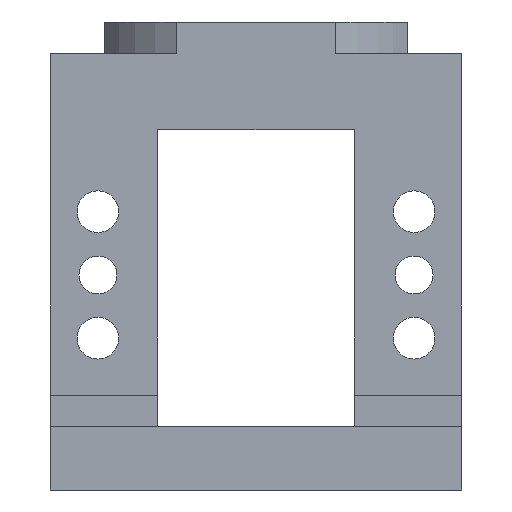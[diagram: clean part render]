
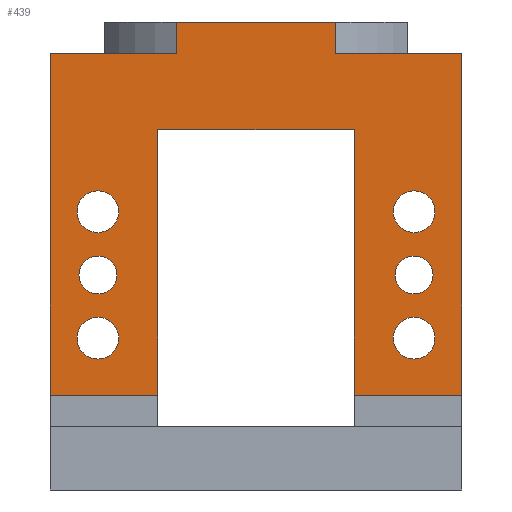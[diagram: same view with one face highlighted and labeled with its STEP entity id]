
A CAD part, front view. The second image highlights one B-rep face of the part: STEP entity #439.
In plain terms, the highlighted planar face has unit normal (0, -1, 0).
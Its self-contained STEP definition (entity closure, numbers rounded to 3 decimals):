
#321=CIRCLE('',#3394,3.);
#329=CIRCLE('',#3405,3.);
#360=CIRCLE('',#3461,3.3);
#363=CIRCLE('',#3466,3.3);
#367=CIRCLE('',#3472,3.3);
#371=CIRCLE('',#3478,3.3);
#439=ADVANCED_FACE('',(#1206,#1207,#1208,#1209,#1210,#1211,#1212),#586,
 .F.);
#586=PLANE('',#3507);
#720=LINE('',#5029,#913);
#726=LINE('',#5043,#919);
#733=LINE('',#5071,#926);
#736=LINE('',#5084,#929);
#738=LINE('',#5087,#931);
#743=LINE('',#5103,#936);
#744=LINE('',#5105,#937);
#745=LINE('',#5107,#938);
#746=LINE('',#5109,#939);
#747=LINE('',#5110,#940);
#748=LINE('',#5112,#941);
#749=LINE('',#5114,#942);
#913=VECTOR('',#3847,1.);
#919=VECTOR('',#3857,1.);
#926=VECTOR('',#3872,1.);
#929=VECTOR('',#3885,1.);
#931=VECTOR('',#3889,1.);
#936=VECTOR('',#3902,1.);
#937=VECTOR('',#3903,1.);
#938=VECTOR('',#3904,1.);
#939=VECTOR('',#3905,1.);
#940=VECTOR('',#3906,1.);
#941=VECTOR('',#3907,1.);
#942=VECTOR('',#3908,1.);
#1206=FACE_BOUND('',#1344,.T.);
#1207=FACE_BOUND('',#1345,.T.);
#1208=FACE_BOUND('',#1346,.T.);
#1209=FACE_BOUND('',#1347,.T.);
#1210=FACE_BOUND('',#1348,.T.);
#1211=FACE_BOUND('',#1349,.T.);
#1212=FACE_BOUND('',#1350,.T.);
#1344=EDGE_LOOP('',(#1776));
#1345=EDGE_LOOP('',(#1777));
#1346=EDGE_LOOP('',(#1778));
#1347=EDGE_LOOP('',(#1779));
#1348=EDGE_LOOP('',(#1780));
#1349=EDGE_LOOP('',(#1781));
#1350=EDGE_LOOP('',(#1782,#1783,#1784,#1785,#1786,#1787,#1788,#1789,#1790,
#1791,#1792,#1793));
#1776=ORIENTED_EDGE('',*,*,#2821,.F.);
#1777=ORIENTED_EDGE('',*,*,#2805,.F.);
#1778=ORIENTED_EDGE('',*,*,#2861,.F.);
#1779=ORIENTED_EDGE('',*,*,#2857,.F.);
#1780=ORIENTED_EDGE('',*,*,#2854,.F.);
#1781=ORIENTED_EDGE('',*,*,#2865,.F.);
#1782=ORIENTED_EDGE('',*,*,#2927,.F.);
#1783=ORIENTED_EDGE('',*,*,#2936,.F.);
#1784=ORIENTED_EDGE('',*,*,#2937,.T.);
#1785=ORIENTED_EDGE('',*,*,#2938,.T.);
#1786=ORIENTED_EDGE('',*,*,#2939,.F.);
#1787=ORIENTED_EDGE('',*,*,#2909,.F.);
#1788=ORIENTED_EDGE('',*,*,#2940,.T.);
#1789=ORIENTED_EDGE('',*,*,#2941,.T.);
#1790=ORIENTED_EDGE('',*,*,#2942,.F.);
#1791=ORIENTED_EDGE('',*,*,#2902,.T.);
#1792=ORIENTED_EDGE('',*,*,#2929,.F.);
#1793=ORIENTED_EDGE('',*,*,#2920,.F.);
#2485=VERTEX_POINT('',#4762);
#2501=VERTEX_POINT('',#4797);
#2538=VERTEX_POINT('',#4928);
#2541=VERTEX_POINT('',#4936);
#2545=VERTEX_POINT('',#4946);
#2549=VERTEX_POINT('',#4956);
#2578=VERTEX_POINT('',#5028);
#2579=VERTEX_POINT('',#5030);
#2584=VERTEX_POINT('',#5042);
#2585=VERTEX_POINT('',#5044);
#2593=VERTEX_POINT('',#5070);
#2594=VERTEX_POINT('',#5072);
#2598=VERTEX_POINT('',#5083);
#2602=VERTEX_POINT('',#5104);
#2603=VERTEX_POINT('',#5106);
#2604=VERTEX_POINT('',#5108);
#2605=VERTEX_POINT('',#5111);
#2606=VERTEX_POINT('',#5113);
#2805=EDGE_CURVE('',#2485,#2485,#321,.T.);
#2821=EDGE_CURVE('',#2501,#2501,#329,.T.);
#2854=EDGE_CURVE('',#2538,#2538,#360,.T.);
#2857=EDGE_CURVE('',#2541,#2541,#363,.T.);
#2861=EDGE_CURVE('',#2545,#2545,#367,.T.);
#2865=EDGE_CURVE('',#2549,#2549,#371,.T.);
#2902=EDGE_CURVE('',#2579,#2578,#720,.T.);
#2909=EDGE_CURVE('',#2584,#2585,#726,.T.);
#2920=EDGE_CURVE('',#2593,#2594,#733,.T.);
#2927=EDGE_CURVE('',#2598,#2593,#736,.T.);
#2929=EDGE_CURVE('',#2594,#2578,#738,.T.);
#2936=EDGE_CURVE('',#2602,#2598,#743,.T.);
#2937=EDGE_CURVE('',#2602,#2603,#744,.T.);
#2938=EDGE_CURVE('',#2603,#2604,#745,.T.);
#2939=EDGE_CURVE('',#2585,#2604,#746,.T.);
#2940=EDGE_CURVE('',#2584,#2605,#747,.T.);
#2941=EDGE_CURVE('',#2605,#2606,#748,.T.);
#2942=EDGE_CURVE('',#2579,#2606,#749,.T.);
#3394=AXIS2_PLACEMENT_3D('',#4761,#3614,#3615);
#3405=AXIS2_PLACEMENT_3D('',#4796,#3644,#3645);
#3461=AXIS2_PLACEMENT_3D('',#4927,#3756,#3757);
#3466=AXIS2_PLACEMENT_3D('',#4935,#3766,#3767);
#3472=AXIS2_PLACEMENT_3D('',#4945,#3778,#3779);
#3478=AXIS2_PLACEMENT_3D('',#4955,#3790,#3791);
#3507=AXIS2_PLACEMENT_3D('',#5115,#3909,#3910);
#3614=DIRECTION('',(0.,-1.,0.));
#3615=DIRECTION('',(0.,0.,-1.));
#3644=DIRECTION('',(0.,-1.,0.));
#3645=DIRECTION('',(0.,0.,-1.));
#3756=DIRECTION('',(0.,-1.,0.));
#3757=DIRECTION('',(-1.,0.,0.));
#3766=DIRECTION('',(0.,-1.,0.));
#3767=DIRECTION('',(-1.,0.,0.));
#3778=DIRECTION('',(0.,-1.,0.));
#3779=DIRECTION('',(-1.,0.,0.));
#3790=DIRECTION('',(0.,-1.,0.));
#3791=DIRECTION('',(-1.,0.,0.));
#3847=DIRECTION('',(-1.,0.,0.));
#3857=DIRECTION('',(-1.,0.,0.));
#3872=DIRECTION('',(1.,0.,0.));
#3885=DIRECTION('',(0.,0.,1.));
#3889=DIRECTION('',(0.,0.,-1.));
#3902=DIRECTION('',(1.,0.,0.));
#3903=DIRECTION('',(0.,0.,-1.));
#3904=DIRECTION('',(1.,0.,0.));
#3905=DIRECTION('',(0.,0.,-1.));
#3906=DIRECTION('',(0.,0.,-1.));
#3907=DIRECTION('',(1.,0.,0.));
#3908=DIRECTION('',(0.,0.,-1.));
#3909=DIRECTION('',(0.,1.,0.));
#3910=DIRECTION('',(1.,0.,0.));
#4761=CARTESIAN_POINT('',(25.,-25.,29.));
#4762=CARTESIAN_POINT('',(25.,-25.,26.));
#4796=CARTESIAN_POINT('',(-25.,-25.,29.));
#4797=CARTESIAN_POINT('',(-25.,-25.,26.));
#4927=CARTESIAN_POINT('',(25.,-25.,39.));
#4928=CARTESIAN_POINT('',(21.7,-25.,39.));
#4935=CARTESIAN_POINT('',(25.,-25.,19.));
#4936=CARTESIAN_POINT('',(21.7,-25.,19.));
#4945=CARTESIAN_POINT('',(-25.,-25.,19.));
#4946=CARTESIAN_POINT('',(-28.3,-25.,19.));
#4955=CARTESIAN_POINT('',(-25.,-25.,39.));
#4956=CARTESIAN_POINT('',(-28.3,-25.,39.));
#5028=CARTESIAN_POINT('',(12.61,-25.,64.));
#5029=CARTESIAN_POINT('',(32.5,-25.,64.));
#5030=CARTESIAN_POINT('',(32.5,-25.,64.));
#5042=CARTESIAN_POINT('',(15.5,-25.,52.));
#5043=CARTESIAN_POINT('',(-31.,-25.,52.));
#5044=CARTESIAN_POINT('',(-15.5,-25.,52.));
#5070=CARTESIAN_POINT('',(-12.61,-25.,69.));
#5071=CARTESIAN_POINT('',(26.,-25.,69.));
#5072=CARTESIAN_POINT('',(12.61,-25.,69.));
#5083=CARTESIAN_POINT('',(-12.61,-25.,64.));
#5084=CARTESIAN_POINT('',(-12.61,-25.,-25.344));
#5087=CARTESIAN_POINT('',(12.61,-25.,-25.344));
#5103=CARTESIAN_POINT('',(-32.5,-25.,64.));
#5104=CARTESIAN_POINT('',(-32.5,-25.,64.));
#5105=CARTESIAN_POINT('',(-32.5,-25.,64.));
#5106=CARTESIAN_POINT('',(-32.5,-25.,10.));
#5107=CARTESIAN_POINT('',(-32.5,-25.,10.));
#5108=CARTESIAN_POINT('',(-15.5,-25.,10.));
#5109=CARTESIAN_POINT('',(-15.5,-25.,59.));
#5110=CARTESIAN_POINT('',(15.5,-25.,59.));
#5111=CARTESIAN_POINT('',(15.5,-25.,10.));
#5112=CARTESIAN_POINT('',(-32.5,-25.,10.));
#5113=CARTESIAN_POINT('',(32.5,-25.,10.));
#5114=CARTESIAN_POINT('',(32.5,-25.,64.));
#5115=CARTESIAN_POINT('',(32.5,-25.,64.));
